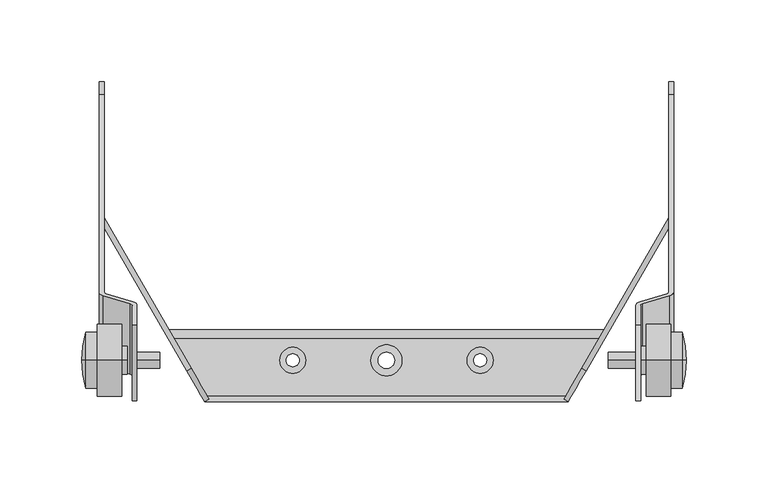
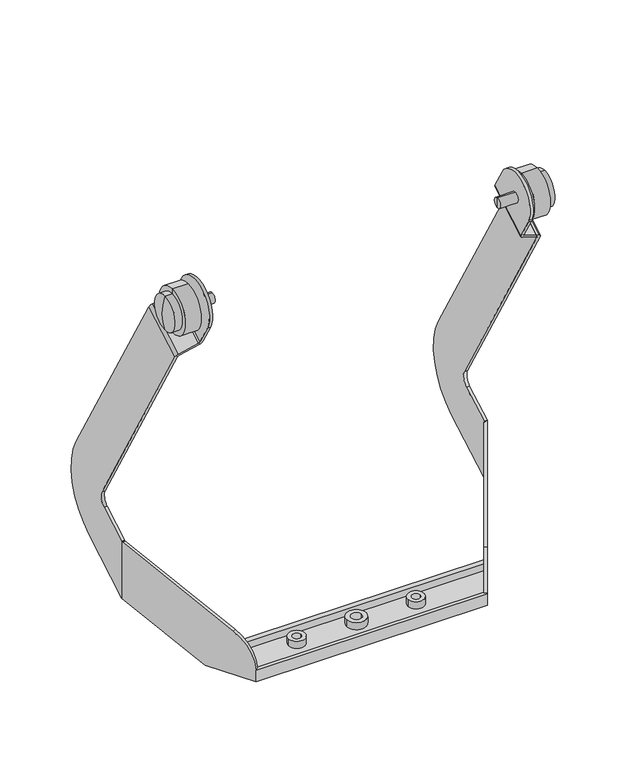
"""IFC4 building model written with IfcOpenShell, lengths in millimetres: proxy geometry, d&b E-Series E12 Flying Bracket : E12 Flying Bracket."""

from ifc_helpers import new_model, si_unit, point, frame, frame_2d, origin, origin_2d, place, context, project, spatial, polyline, circle_curve, ellipse_curve, trimmed, segment, composite_curve, outline, extrude, source, transform, mapped, element, save
from ifc_brep_helpers import plane_surface, cylinder_surface, revolved_surface, advanced_brep


def communication_devices_67a3c12e(model_context):
    return source(origin(), model_context, "Body", "SolidModel", [
        advanced_brep(
        [(135.9595215, 0.0, 0.0), (135.9595215, 0.0, -5.0), (135.9595215, 0.0, 5.0), (152.9595215, 0.0, -5.0), (152.9595215, 0.0, 0.0), (152.9595215, 0.0, 5.0)],
        [
            (0, 1),
            (1, 2, circle_curve(frame((135.9595215, 0.0, 0.0), z_axis=(-1.0, 0.0, 0.0), x_axis=(0.0, 0.0, 1.0)), 5.0)),
            (2, 0),
            (2, 1, circle_curve(frame((135.9595215, 0.0, 0.0), z_axis=(-1.0, 0.0, 0.0), x_axis=(0.0, 0.0, 1.0)), 5.0)),
            (3, 4),
            (4, 5),
            (5, 3, circle_curve(frame((152.9595215, 0.0, 0.0), z_axis=(1.0, 0.0, 0.0), x_axis=(0.0, 0.0, 1.0)), 5.0)),
            (3, 5, circle_curve(frame((152.9595215, 0.0, 0.0), z_axis=(1.0, 0.0, 0.0), x_axis=(0.0, 0.0, 1.0)), 5.0)),
            (1, 3),
            (5, 2),
        ],
        [
            plane_surface(frame((135.9595215, 0.0, 0.0), z_axis=(-1.0, 0.0, 0.0), x_axis=(0.0, 0.0, 1.0))),
            plane_surface(frame((152.9595215, 0.0, 0.0), z_axis=(1.0, 0.0, 0.0), x_axis=(0.0, 0.0, 1.0))),
            cylinder_surface(frame((129.4940408, 0.0, 0.0), z_axis=(-1.0, 0.0, 0.0), x_axis=(0.0, 0.0, 1.0)), 5.0),
        ],
        [
            (0, [[1, 2, 3]]),
            (0, [[-3, 4, -1]]),
            (1, [[5, 6, 7]]),
            (1, [[-6, -5, 8]]),
            (2, [[9, -7, 10, -2]]),
            (2, [[-10, -8, -9, -4]]),
        ],
    ),
        advanced_brep(
        [(174.1608752, 0.0, -17.2114062), (181.2977902, 0.0, -17.2114062), (181.2977902, 0.0, 17.2114062), (174.1608752, 0.0, 17.2114062), (174.1608752, 0.0, -22.2114062), (174.1608752, 0.0, 22.2114062), (159.1608752, 0.0, -22.2114062), (159.1608752, 0.0, 22.2114062), (159.1608752, 0.0, -8.6587657), (159.1608752, 0.0, 8.6587657), (155.9595215, 0.0, -8.6587657), (155.9595215, 0.0, 8.6587657), (155.9595215, 0.0, 0.0), (183.8983232, 0.0, 0.0)],
        [
            (0, 1),
            (1, 2, circle_curve(frame((181.2977902, 0.0, 0.0), z_axis=(-1.0, 0.0, 0.0), x_axis=(0.0, 0.0, 1.0)), 17.2114062)),
            (2, 3),
            (3, 0, circle_curve(frame((174.1608752, 0.0, 0.0), z_axis=(1.0, 0.0, 0.0), x_axis=(0.0, 0.0, 1.0)), 17.2114062)),
            (2, 1, circle_curve(frame((181.2977902, 0.0, 0.0), z_axis=(-1.0, 0.0, 0.0), x_axis=(0.0, 0.0, 1.0)), 17.2114062)),
            (0, 3, circle_curve(frame((174.1608752, 0.0, 0.0), z_axis=(1.0, 0.0, 0.0), x_axis=(0.0, 0.0, 1.0)), 17.2114062)),
            (4, 0),
            (3, 5),
            (5, 4, circle_curve(frame((174.1608752, 0.0, 0.0), z_axis=(1.0, 0.0, 0.0), x_axis=(0.0, 0.0, 1.0)), 22.2114062)),
            (4, 5, circle_curve(frame((174.1608752, 0.0, 0.0), z_axis=(1.0, 0.0, 0.0), x_axis=(0.0, 0.0, 1.0)), 22.2114062)),
            (6, 4),
            (5, 7),
            (7, 6, circle_curve(frame((159.1608752, 0.0, 0.0), z_axis=(1.0, 0.0, 0.0), x_axis=(0.0, 0.0, 1.0)), 22.2114062)),
            (6, 7, circle_curve(frame((159.1608752, 0.0, 0.0), z_axis=(1.0, 0.0, 0.0), x_axis=(0.0, 0.0, 1.0)), 22.2114062)),
            (8, 6),
            (7, 9),
            (9, 8, circle_curve(frame((159.1608752, 0.0, 0.0), z_axis=(1.0, 0.0, 0.0), x_axis=(0.0, 0.0, 1.0)), 8.6587657)),
            (8, 9, circle_curve(frame((159.1608752, 0.0, 0.0), z_axis=(1.0, 0.0, 0.0), x_axis=(0.0, 0.0, 1.0)), 8.6587657)),
            (10, 8),
            (9, 11),
            (11, 10, circle_curve(frame((155.9595215, 0.0, 0.0), z_axis=(1.0, 0.0, 0.0), x_axis=(0.0, 0.0, 1.0)), 8.6587657)),
            (10, 11, circle_curve(frame((155.9595215, 0.0, 0.0), z_axis=(1.0, 0.0, 0.0), x_axis=(0.0, 0.0, 1.0)), 8.6587657)),
            (12, 10),
            (11, 12),
            (1, 13, circle_curve(frame((125.6419429, 0.0, 0.0), z_axis=(0.0, -1.0, 0.0), x_axis=(1.0, 0.0, 0.0)), 58.2563803)),
            (13, 2, circle_curve(frame((125.6419429, 0.0, 0.0), z_axis=(0.0, -1.0, 0.0), x_axis=(1.0, 0.0, 0.0)), 58.2563803)),
        ],
        [
            cylinder_surface(frame((129.4940408, 0.0, 0.0), z_axis=(-1.0, 0.0, 0.0), x_axis=(0.0, 0.0, 1.0)), 17.2114062),
            plane_surface(frame((174.1608752, 0.0, 0.0), z_axis=(1.0, 0.0, 0.0), x_axis=(0.0, 0.0, 1.0))),
            cylinder_surface(frame((129.4940408, 0.0, 0.0), z_axis=(-1.0, 0.0, 0.0), x_axis=(0.0, 0.0, 1.0)), 22.2114062),
            plane_surface(frame((159.1608752, 0.0, 0.0), z_axis=(-1.0, 0.0, 0.0), x_axis=(0.0, 0.0, 1.0))),
            cylinder_surface(frame((129.4940408, 0.0, 0.0), z_axis=(-1.0, 0.0, 0.0), x_axis=(0.0, 0.0, 1.0)), 8.6587657),
            plane_surface(frame((155.9595215, 0.0, 0.0), z_axis=(-1.0, 0.0, 0.0), x_axis=(0.0, 0.0, 1.0))),
            revolved_surface(trimmed(ellipse_curve(frame((125.6419429, 0.0, 0.0), z_axis=(0.0, -1.0, 0.0), x_axis=(1.0, 0.0, 0.0)), 58.2563803, 58.2563803), [point((183.8983232, 0.0, 0.0))], [point((181.2977902, 0.0, 17.2114062))], True, "CARTESIAN"), (129.4940408, 0.0, 0.0), (-1.0, 0.0, 0.0)),
        ],
        [
            (0, [[1, 2, 3, 4]]),
            (0, [[-3, 5, -1, 6]]),
            (1, [[7, -4, 8, 9]]),
            (1, [[-8, -6, -7, 10]]),
            (2, [[11, -9, 12, 13]]),
            (2, [[-12, -10, -11, 14]]),
            (3, [[15, -13, 16, 17]]),
            (3, [[-16, -14, -15, 18]]),
            (4, [[19, -17, 20, 21]]),
            (4, [[-20, -18, -19, 22]]),
            (5, [[23, -21, 24]]),
            (5, [[-24, -22, -23]]),
            (6, [[25, 26, -2]]),
            (6, [[-26, -25, -5]]),
        ],
    ),
        advanced_brep(
        [(-155.9595215, 0.0, -5.0), (-138.9595215, 0.0, -5.0), (-138.9595215, 0.0, 5.0), (-155.9595215, 0.0, 5.0), (-155.9595215, 0.0, 0.0), (-138.9595215, 0.0, 0.0)],
        [
            (0, 1),
            (1, 2, circle_curve(frame((-138.9595215, 0.0, 0.0), z_axis=(-1.0, 0.0, 0.0), x_axis=(0.0, 0.0, 1.0)), 5.0)),
            (2, 3),
            (3, 0, circle_curve(frame((-155.9595215, 0.0, 0.0), z_axis=(1.0, 0.0, 0.0), x_axis=(0.0, 0.0, 1.0)), 5.0)),
            (2, 1, circle_curve(frame((-138.9595215, 0.0, 0.0), z_axis=(-1.0, 0.0, 0.0), x_axis=(0.0, 0.0, 1.0)), 5.0)),
            (0, 3, circle_curve(frame((-155.9595215, 0.0, 0.0), z_axis=(1.0, 0.0, 0.0), x_axis=(0.0, 0.0, 1.0)), 5.0)),
            (4, 0),
            (3, 4),
            (1, 5),
            (5, 2),
        ],
        [
            cylinder_surface(frame((129.4940408, 0.0, 0.0), z_axis=(-1.0, 0.0, 0.0), x_axis=(0.0, 0.0, 1.0)), 5.0),
            plane_surface(frame((-155.9595215, 0.0, 0.0), z_axis=(-1.0, 0.0, 0.0), x_axis=(0.0, 0.0, 1.0))),
            plane_surface(frame((-138.9595215, 0.0, 0.0), z_axis=(1.0, 0.0, 0.0), x_axis=(0.0, 0.0, 1.0))),
        ],
        [
            (0, [[1, 2, 3, 4]]),
            (0, [[-3, 5, -1, 6]]),
            (1, [[7, -4, 8]]),
            (1, [[-8, -6, -7]]),
            (2, [[9, 10, -2]]),
            (2, [[-10, -9, -5]]),
        ],
    ),
        advanced_brep(
        [(-158.9595215, 0.0, -8.6587657), (-158.9595215, 0.0, 0.0), (-158.9595215, 0.0, 8.6587657), (-162.1608752, 0.0, -8.6587657), (-162.1608752, 0.0, 8.6587657), (-162.1608752, 0.0, -22.2114062), (-162.1608752, 0.0, 22.2114062), (-177.1608752, 0.0, -22.2114062), (-177.1608752, 0.0, 22.2114062), (-177.1608752, 0.0, -17.2114062), (-177.1608752, 0.0, 17.2114062), (-184.2977902, 0.0, -17.2114062), (-184.2977902, 0.0, 17.2114062), (-186.8983232, 0.0, 0.0)],
        [
            (0, 1),
            (1, 2),
            (2, 0, circle_curve(frame((-158.9595215, 0.0, 0.0), z_axis=(1.0, 0.0, 0.0), x_axis=(0.0, 0.0, 1.0)), 8.6587657)),
            (0, 2, circle_curve(frame((-158.9595215, 0.0, 0.0), z_axis=(1.0, 0.0, 0.0), x_axis=(0.0, 0.0, 1.0)), 8.6587657)),
            (3, 0),
            (2, 4),
            (4, 3, circle_curve(frame((-162.1608752, 0.0, 0.0), z_axis=(1.0, 0.0, 0.0), x_axis=(0.0, 0.0, 1.0)), 8.6587657)),
            (3, 4, circle_curve(frame((-162.1608752, 0.0, 0.0), z_axis=(1.0, 0.0, 0.0), x_axis=(0.0, 0.0, 1.0)), 8.6587657)),
            (5, 3),
            (4, 6),
            (6, 5, circle_curve(frame((-162.1608752, 0.0, 0.0), z_axis=(1.0, 0.0, 0.0), x_axis=(0.0, 0.0, 1.0)), 22.2114062)),
            (5, 6, circle_curve(frame((-162.1608752, 0.0, 0.0), z_axis=(1.0, 0.0, 0.0), x_axis=(0.0, 0.0, 1.0)), 22.2114062)),
            (7, 5),
            (6, 8),
            (8, 7, circle_curve(frame((-177.1608752, 0.0, 0.0), z_axis=(1.0, 0.0, 0.0), x_axis=(0.0, 0.0, 1.0)), 22.2114062)),
            (7, 8, circle_curve(frame((-177.1608752, 0.0, 0.0), z_axis=(1.0, 0.0, 0.0), x_axis=(0.0, 0.0, 1.0)), 22.2114062)),
            (9, 7),
            (8, 10),
            (10, 9, circle_curve(frame((-177.1608752, 0.0, 0.0), z_axis=(1.0, 0.0, 0.0), x_axis=(0.0, 0.0, 1.0)), 17.2114062)),
            (9, 10, circle_curve(frame((-177.1608752, 0.0, 0.0), z_axis=(1.0, 0.0, 0.0), x_axis=(0.0, 0.0, 1.0)), 17.2114062)),
            (11, 9),
            (10, 12),
            (12, 11, circle_curve(frame((-184.2977902, 0.0, 0.0), z_axis=(1.0, 0.0, 0.0), x_axis=(0.0, 0.0, 1.0)), 17.2114062)),
            (11, 12, circle_curve(frame((-184.2977902, 0.0, 0.0), z_axis=(1.0, 0.0, 0.0), x_axis=(0.0, 0.0, 1.0)), 17.2114062)),
            (13, 11, circle_curve(frame((-128.6419429, 0.0, 0.0), z_axis=(0.0, -1.0, 0.0), x_axis=(-1.0, 0.0, 0.0)), 58.2563803)),
            (12, 13, circle_curve(frame((-128.6419429, 0.0, 0.0), z_axis=(0.0, -1.0, 0.0), x_axis=(-1.0, 0.0, 0.0)), 58.2563803)),
        ],
        [
            plane_surface(frame((-158.9595215, 0.0, 0.0), z_axis=(1.0, 0.0, 0.0), x_axis=(0.0, 0.0, 1.0))),
            cylinder_surface(frame((129.4940408, 0.0, 0.0), z_axis=(-1.0, 0.0, 0.0), x_axis=(0.0, 0.0, 1.0)), 8.6587657),
            plane_surface(frame((-162.1608752, 0.0, 0.0), z_axis=(1.0, 0.0, 0.0), x_axis=(0.0, 0.0, 1.0))),
            cylinder_surface(frame((129.4940408, 0.0, 0.0), z_axis=(-1.0, 0.0, 0.0), x_axis=(0.0, 0.0, 1.0)), 22.2114062),
            plane_surface(frame((-177.1608752, 0.0, 0.0), z_axis=(-1.0, 0.0, 0.0), x_axis=(0.0, 0.0, 1.0))),
            cylinder_surface(frame((129.4940408, 0.0, 0.0), z_axis=(-1.0, 0.0, 0.0), x_axis=(0.0, 0.0, 1.0)), 17.2114062),
            revolved_surface(trimmed(ellipse_curve(frame((-128.6419429, 0.0, 0.0), z_axis=(0.0, -1.0, 0.0), x_axis=(-1.0, 0.0, 0.0)), 58.2563803, 58.2563803), [point((-184.2977902, 0.0, 17.2114062))], [point((-186.8983232, 0.0, 0.0))], True, "CARTESIAN"), (129.4940408, 0.0, 0.0), (-1.0, 0.0, 0.0)),
        ],
        [
            (0, [[1, 2, 3]]),
            (0, [[-2, -1, 4]]),
            (1, [[5, -3, 6, 7]]),
            (1, [[-6, -4, -5, 8]]),
            (2, [[9, -7, 10, 11]]),
            (2, [[-10, -8, -9, 12]]),
            (3, [[13, -11, 14, 15]]),
            (3, [[-14, -12, -13, 16]]),
            (4, [[17, -15, 18, 19]]),
            (4, [[-18, -16, -17, 20]]),
            (5, [[21, -19, 22, 23]]),
            (5, [[-22, -20, -21, 24]]),
            (6, [[25, -23, 26]]),
            (6, [[-26, -24, -25]]),
        ],
    ),
        advanced_brep(
        [(-109.8427221, -22.0294085, -380.4443113), (109.8427221, -22.0294085, -380.4443113), (130.4541267, 13.6705915, -380.4443113), (-130.4541267, 13.6705915, -380.4443113), (-61.4155031, 0.0, -380.4443113), (-53.4660711, 0.0, -380.4443113), (61.4155031, 0.0, -380.4443113), (53.4660711, 0.0, -380.4443113), (-5.0, 0.0, -380.4443113), (5.0, 0.0, -380.4443113), (-133.340878, 18.6705915, -385.4443113), (-133.340878, 18.6705915, -373.4443113), (133.340878, 18.6705915, -373.4443113), (133.340878, 18.6705915, -385.4443113), (-61.4155031, 0.0, -385.4443113), (-53.4660711, 0.0, -385.4443113), (61.4155031, 0.0, -385.4443113), (53.4660711, 0.0, -385.4443113), (-5.0, 0.0, -385.4443113), (5.0, 0.0, -385.4443113), (-155.9595215, 21.6526926, 12.5011879), (-155.9595215, 33.8153128, -8.5650882), (-155.9595215, -9.4859574, -33.5650882), (-155.9595215, -21.6485776, -12.4988121), (-152.9595215, 21.6526926, 12.5011879), (-152.9595215, -21.6485776, -12.4988121), (-152.9595215, -9.4859574, -33.5650882), (-152.9595215, 33.8153128, -8.5650882), (-155.4595215, 35.9803763, -12.3150882), (-172.0, 40.7552012, -20.5853275), (-173.0, 41.6212266, -22.0853275), (-173.0, 162.8973037, -232.1416549), (-176.0, 162.8973037, -232.1416549), (-176.0, 41.6212266, -22.0853275), (-173.5, 39.456163, -18.3353275), (-156.9595215, 34.6813382, -10.0650882), (-156.9595215, -8.619932, -35.0650882), (-173.5, -3.8451071, -43.3353275), (-176.0, -1.6800436, -47.0853275), (-176.0, 119.6052554, -257.1576276), (-173.0, 119.6052554, -257.1576276), (-173.0, -1.6800436, -47.0853275), (-172.0, -2.546069, -45.5853275), (-155.4595215, -7.3208939, -37.3150882), (-173.0, 115.9450014, -270.8178817), (-173.0, 86.5583581, -287.7842681), (-173.0, 86.5583581, -288.5343764), (-173.0, 87.3622057, -288.1862499), (-173.0, 87.3622057, -345.0338964), (-173.0, 140.9357795, -314.1031791), (-176.0, 140.9357795, -314.1031791), (-176.0, 86.5583581, -345.497998), (-176.0, 86.5583581, -287.7842681), (-176.0, 115.9450014, -270.8178817), (-130.4541267, 13.6705915, -373.4443113), (130.4541267, 13.6705915, -373.4443113), (111.2860977, -25.5294085, -373.4443113), (111.3757414, -25.3741412, -373.4443113), (108.7776652, -23.8741412, -373.4443113), (109.8427221, -22.0294085, -373.4443113), (-109.8427221, -22.0294085, -373.4443113), (-108.7776652, -23.8741412, -373.4443113), (-111.3757414, -25.3741412, -373.4443113), (-111.2860977, -25.5294085, -373.4443113), (-111.2860977, -25.5294085, -385.4443113), (111.2860977, -25.5294085, -385.4443113), (-173.4019238, 88.0583581, -344.6319726), (-135.9400452, 17.1724811, -385.4443113), (-122.3407926, -6.3821154, -341.4512241), (-173.4019238, 88.0583581, -345.497998), (-119.7427164, -4.8821154, -341.4512241), (135.9400452, 17.1724811, -385.4443113), (176.0, 86.5583581, -345.497998), (176.0, 86.5583581, -287.7842681), (122.3407926, -6.3821154, -341.4512241), (173.0, -1.6800436, -47.0853275), (173.0, 41.6212266, -22.0853275), (173.0, 162.8973037, -232.1416549), (173.0, 140.9357795, -314.1031791), (173.0, 87.3622057, -345.0338964), (173.0, 87.3622057, -288.1862499), (173.0, 86.5583581, -288.5343764), (173.0, 86.5583581, -287.7842681), (173.0, 115.9450014, -270.8178817), (173.0, 119.6052554, -257.1576276), (176.0, 41.6212266, -22.0853275), (176.0, -1.6800436, -47.0853275), (176.0, 119.6052554, -257.1576276), (176.0, 115.9450014, -270.8178817), (176.0, 140.9357795, -314.1031791), (176.0, 162.8973037, -232.1416549), (172.0, 40.7552012, -20.5853275), (155.4595215, 35.9803763, -12.3150882), (152.9595215, 33.8153128, -8.5650882), (152.9595215, 21.6526926, 12.5011879), (155.9595215, 21.6526926, 12.5011879), (155.9595215, 33.8153128, -8.5650882), (156.9595215, 34.6813382, -10.0650882), (173.5, 39.456163, -18.3353275), (173.4019238, 88.0583581, -344.6319726), (173.5, -3.8451071, -43.3353275), (156.9595215, -8.619932, -35.0650882), (155.9595215, -9.4859574, -33.5650882), (155.9595215, -21.6485776, -12.4988121), (152.9595215, -21.6485776, -12.4988121), (152.9595215, -9.4859574, -33.5650882), (155.4595215, -7.3208939, -37.3150882), (172.0, -2.546069, -45.5853275), (119.7427164, -4.8821154, -341.4512241), (173.4019238, 88.0583581, -345.497998)],
        [
            (0, 1),
            (1, 2),
            (2, 3),
            (3, 0),
            (4, 5, circle_curve(frame((-57.4407871, 0.0, -380.4443113), z_axis=(0.0, 0.0, -1.0), x_axis=(1.0, 0.0, 0.0)), 3.974716)),
            (5, 4, circle_curve(frame((-57.4407871, 0.0, -380.4443113), z_axis=(0.0, 0.0, -1.0), x_axis=(1.0, 0.0, 0.0)), 3.974716)),
            (6, 7, circle_curve(frame((57.4407871, 0.0, -380.4443113), z_axis=(0.0, 0.0, -1.0), x_axis=(-1.0, 0.0, 0.0)), 3.974716)),
            (7, 6, circle_curve(frame((57.4407871, 0.0, -380.4443113), z_axis=(0.0, 0.0, -1.0), x_axis=(-1.0, 0.0, 0.0)), 3.974716)),
            (8, 9, circle_curve(frame((0.0, 0.0, -380.4443113), z_axis=(0.0, 0.0, -1.0), x_axis=(1.0, 0.0, 0.0)), 5.0)),
            (9, 8, circle_curve(frame((0.0, 0.0, -380.4443113), z_axis=(0.0, 0.0, -1.0), x_axis=(1.0, 0.0, 0.0)), 5.0)),
            (10, 11),
            (11, 12),
            (12, 13),
            (13, 10),
            (14, 4),
            (5, 15),
            (15, 14, circle_curve(frame((-57.4407871, 0.0, -385.4443113), z_axis=(0.0, 0.0, -1.0), x_axis=(1.0, 0.0, 0.0)), 3.974716)),
            (14, 15, circle_curve(frame((-57.4407871, 0.0, -385.4443113), z_axis=(0.0, 0.0, -1.0), x_axis=(1.0, 0.0, 0.0)), 3.974716)),
            (16, 6),
            (7, 17),
            (17, 16, circle_curve(frame((57.4407871, 0.0, -385.4443113), z_axis=(0.0, 0.0, -1.0), x_axis=(-1.0, 0.0, 0.0)), 3.974716)),
            (16, 17, circle_curve(frame((57.4407871, 0.0, -385.4443113), z_axis=(0.0, 0.0, -1.0), x_axis=(-1.0, 0.0, 0.0)), 3.974716)),
            (18, 8),
            (9, 19),
            (19, 18, circle_curve(frame((0.0, 0.0, -385.4443113), z_axis=(0.0, 0.0, -1.0), x_axis=(1.0, 0.0, 0.0)), 5.0)),
            (18, 19, circle_curve(frame((0.0, 0.0, -385.4443113), z_axis=(0.0, 0.0, -1.0), x_axis=(1.0, 0.0, 0.0)), 5.0)),
            (20, 21),
            (21, 22),
            (22, 23),
            (23, 20, circle_curve(frame((-155.9595215, 0.0020575, 0.0011879), z_axis=(-1.0, 0.0, 0.0), x_axis=(0.0, 1.0, 0.0)), 25.0)),
            (24, 25, circle_curve(frame((-152.9595215, 0.0020575, 0.0011879), z_axis=(1.0, 0.0, 0.0), x_axis=(0.0, 1.0, 0.0)), 25.0)),
            (25, 26),
            (26, 27),
            (27, 24),
            (20, 24),
            (27, 28, circle_curve(frame((-157.9595215, 33.8153128, -8.5650882), z_axis=(0.0, 0.866025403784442, 0.4999999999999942), x_axis=(0.0, -0.4999999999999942, 0.866025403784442)), 5.0)),
            (28, 29),
            (29, 30, circle_curve(frame((-171.0, 41.6212266, -22.0853275), z_axis=(0.0, -0.866025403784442, -0.4999999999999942), x_axis=(0.0, -0.4999999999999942, 0.866025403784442)), 2.0)),
            (30, 31),
            (31, 32),
            (32, 33),
            (33, 34, circle_curve(frame((-171.0, 41.6212266, -22.0853275), z_axis=(0.0, 0.866025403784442, 0.4999999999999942), x_axis=(0.0, -0.4999999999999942, 0.866025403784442)), 5.0)),
            (34, 35),
            (35, 21, circle_curve(frame((-157.9595215, 33.8153128, -8.5650882), z_axis=(0.0, -0.866025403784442, -0.4999999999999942), x_axis=(0.0, -0.4999999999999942, 0.866025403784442)), 2.0)),
            (22, 36, circle_curve(frame((-157.9595215, -9.4859574, -33.5650882), z_axis=(0.0, 0.866025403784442, 0.4999999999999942), x_axis=(0.0, -0.4999999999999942, 0.866025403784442)), 2.0)),
            (36, 37),
            (37, 38, circle_curve(frame((-171.0, -1.6800436, -47.0853275), z_axis=(0.0, -0.866025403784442, -0.4999999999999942), x_axis=(0.0, -0.4999999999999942, 0.866025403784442)), 5.0)),
            (38, 39),
            (39, 40),
            (40, 41),
            (41, 42, circle_curve(frame((-171.0, -1.6800436, -47.0853275), z_axis=(0.0, 0.866025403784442, 0.4999999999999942), x_axis=(0.0, -0.4999999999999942, 0.866025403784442)), 2.0)),
            (42, 43),
            (43, 26, circle_curve(frame((-157.9595215, -9.4859574, -33.5650882), z_axis=(0.0, -0.866025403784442, -0.4999999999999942), x_axis=(0.0, -0.4999999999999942, 0.866025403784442)), 5.0)),
            (25, 23),
            (30, 41),
            (40, 44, circle_curve(frame((-173.0, 110.9450014, -262.1576276), z_axis=(-1.0, 0.0, 0.0), x_axis=(0.0, 1.0, 0.0)), 10.0)),
            (44, 45),
            (45, 46),
            (46, 47),
            (47, 48),
            (48, 49),
            (49, 31, circle_curve(frame((-173.0, 110.9357795, -262.1416549), z_axis=(1.0, 0.0, 0.0), x_axis=(0.0, 1.0, 0.0)), 60.0)),
            (38, 33),
            (32, 50, circle_curve(frame((-176.0, 110.9357795, -262.1416549), z_axis=(-1.0, 0.0, 0.0), x_axis=(0.0, 1.0, 0.0)), 60.0)),
            (50, 51),
            (51, 52),
            (52, 53),
            (53, 39, circle_curve(frame((-176.0, 110.9450014, -262.1576276), z_axis=(1.0, 0.0, 0.0), x_axis=(0.0, 1.0, 0.0)), 10.0)),
            (11, 54),
            (54, 55),
            (55, 12),
            (56, 57),
            (57, 58),
            (58, 59),
            (59, 60),
            (60, 61),
            (61, 62),
            (62, 63),
            (63, 56),
            (54, 3),
            (2, 55),
            (59, 1),
            (0, 60),
            (63, 64),
            (64, 65),
            (65, 56),
            (49, 50),
            (48, 66),
            (66, 51),
            (52, 46),
            (45, 52),
            (44, 53),
            (29, 42),
            (28, 43),
            (35, 36),
            (34, 37),
            (51, 67),
            (67, 64),
            (62, 68, circle_curve(frame((-131.2860977, 9.1116076, -377.2272785), z_axis=(-0.866025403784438, -0.500000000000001, 0.0), x_axis=(-0.500000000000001, 0.866025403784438, 0.0)), 40.0)),
            (68, 52),
            (69, 66),
            (47, 70),
            (70, 61, circle_curve(frame((-128.6880215, 10.6116076, -377.2272785), z_axis=(0.866025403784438, 0.500000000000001, 0.0), x_axis=(-0.500000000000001, 0.866025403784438, 0.0)), 40.0)),
            (10, 69),
            (69, 51),
            (68, 70),
            (13, 71),
            (71, 65),
            (67, 10),
            (71, 72),
            (72, 73),
            (73, 74),
            (74, 57, circle_curve(frame((131.2860977, 9.1116076, -377.2272785), z_axis=(0.866025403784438, -0.500000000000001, 0.0), x_axis=(0.500000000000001, 0.866025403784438, 0.0)), 40.0)),
            (75, 76),
            (76, 77),
            (77, 78, circle_curve(frame((173.0, 110.9357795, -262.1416549), z_axis=(-1.0, 0.0, 0.0), x_axis=(0.0, 1.0, 0.0)), 60.0)),
            (78, 79),
            (79, 80),
            (80, 81),
            (81, 82),
            (82, 83),
            (83, 84, circle_curve(frame((173.0, 110.9450014, -262.1576276), z_axis=(1.0, 0.0, 0.0), x_axis=(0.0, 1.0, 0.0)), 10.0)),
            (84, 75),
            (85, 86),
            (86, 87),
            (87, 88, circle_curve(frame((176.0, 110.9450014, -262.1576276), z_axis=(-1.0, 0.0, 0.0), x_axis=(0.0, 1.0, 0.0)), 10.0)),
            (88, 73),
            (72, 89),
            (89, 90, circle_curve(frame((176.0, 110.9357795, -262.1416549), z_axis=(1.0, 0.0, 0.0), x_axis=(0.0, 1.0, 0.0)), 60.0)),
            (90, 85),
            (76, 91, circle_curve(frame((171.0, 41.6212266, -22.0853275), z_axis=(0.0, -0.866025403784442, -0.4999999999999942), x_axis=(0.0, -0.4999999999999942, 0.866025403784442)), 2.0)),
            (91, 92),
            (92, 93, circle_curve(frame((157.9595215, 33.8153128, -8.5650882), z_axis=(0.0, 0.866025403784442, 0.4999999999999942), x_axis=(0.0, -0.4999999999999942, 0.866025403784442)), 5.0)),
            (93, 94),
            (94, 95),
            (95, 96),
            (96, 97, circle_curve(frame((157.9595215, 33.8153128, -8.5650882), z_axis=(0.0, -0.866025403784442, -0.4999999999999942), x_axis=(0.0, -0.4999999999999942, 0.866025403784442)), 2.0)),
            (97, 98),
            (98, 85, circle_curve(frame((171.0, 41.6212266, -22.0853275), z_axis=(0.0, 0.866025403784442, 0.4999999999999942), x_axis=(0.0, -0.4999999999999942, 0.866025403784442)), 5.0)),
            (90, 77),
            (89, 78),
            (72, 99),
            (99, 79),
            (81, 73),
            (73, 82),
            (88, 83),
            (87, 84),
            (86, 100, circle_curve(frame((171.0, -1.6800436, -47.0853275), z_axis=(0.0, -0.866025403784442, -0.4999999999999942), x_axis=(0.0, -0.4999999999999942, 0.866025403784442)), 5.0)),
            (100, 101),
            (101, 102, circle_curve(frame((157.9595215, -9.4859574, -33.5650882), z_axis=(0.0, 0.866025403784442, 0.4999999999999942), x_axis=(0.0, -0.4999999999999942, 0.866025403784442)), 2.0)),
            (102, 103),
            (103, 104),
            (104, 105),
            (105, 106, circle_curve(frame((157.9595215, -9.4859574, -33.5650882), z_axis=(0.0, -0.866025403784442, -0.4999999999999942), x_axis=(0.0, -0.4999999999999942, 0.866025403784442)), 5.0)),
            (106, 107),
            (107, 75, circle_curve(frame((171.0, -1.6800436, -47.0853275), z_axis=(0.0, 0.866025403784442, 0.4999999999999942), x_axis=(0.0, -0.4999999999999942, 0.866025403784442)), 2.0)),
            (95, 103, circle_curve(frame((155.9595215, 0.0020575, 0.0011879), z_axis=(1.0, 0.0, 0.0), x_axis=(0.0, 1.0, 0.0)), 25.0)),
            (102, 96),
            (93, 105),
            (104, 94, circle_curve(frame((152.9595215, 0.0020575, 0.0011879), z_axis=(-1.0, 0.0, 0.0), x_axis=(0.0, 1.0, 0.0)), 25.0)),
            (107, 91),
            (106, 92),
            (101, 97),
            (100, 98),
            (58, 108, circle_curve(frame((128.6880215, 10.6116076, -377.2272785), z_axis=(-0.866025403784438, 0.500000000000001, 0.0), x_axis=(0.500000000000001, 0.866025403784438, 0.0)), 40.0)),
            (108, 80),
            (99, 109),
            (109, 13),
            (72, 109),
            (108, 74),
        ],
        [
            plane_surface(frame((-104.945433, -30.511762, -380.4443113), z_axis=(0.0, 0.0, 1.0), x_axis=(-0.4999999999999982, 0.8660254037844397, 0.0))),
            plane_surface(frame((-133.340878, 18.6705915, -380.4443113), z_axis=(0.0, 1.0, 0.0), x_axis=(0.0, 0.0, -1.0))),
            revolved_surface(polyline([(-53.4660711, 0.0, -385.4443113), (-53.4660711, 0.0, -380.4443113)]), (-57.4407871, 0.0, -380.4443113), (0.0, 0.0, -1.0)),
            revolved_surface(polyline([(53.4660711, 0.0, -385.4443113), (53.4660711, 0.0, -380.4443113)]), (57.4407871, 0.0, -380.4443113), (0.0, 0.0, -1.0)),
            revolved_surface(polyline([(5.0, 0.0, -385.4443113), (5.0, 0.0, -380.4443113)]), (0.0, 0.0, -380.4443113), (0.0, 0.0, -1.0)),
            plane_surface(frame((-155.9595215, 25.0020575, 0.0011879), z_axis=(-1.0, 0.0, 0.0), x_axis=(0.0, 0.0, 1.0))),
            plane_surface(frame((-152.9595215, 25.0020575, 0.0011879), z_axis=(1.0, 0.0, 0.0), x_axis=(0.0, 0.0, -1.0))),
            plane_surface(frame((-155.9595215, 33.8153128, -8.5650882), z_axis=(0.0, 0.8660254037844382, 0.500000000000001), x_axis=(1.0, 0.0, 0.0))),
            plane_surface(frame((-155.9595215, -21.6485776, -12.4988121), z_axis=(0.0, -0.8660254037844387, -0.5), x_axis=(1.0, 0.0, 0.0))),
            cylinder_surface(frame((-152.9595215, 0.0020575, 0.0011879), z_axis=(-1.0, 0.0, 0.0), x_axis=(0.0, 1.0, 0.0)), 25.0),
            plane_surface(frame((-173.0, 162.8973037, -232.1416549), z_axis=(1.0, 0.0, 0.0), x_axis=(0.0, 0.49999999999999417, -0.866025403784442))),
            plane_surface(frame((-176.0, 162.8973037, -232.1416549), z_axis=(-1.0, 0.0, 0.0), x_axis=(0.0, -0.49999999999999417, 0.866025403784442))),
            plane_surface(frame((-125.0774491, 4.3579127, -373.4443113), z_axis=(0.0, 0.0, 1.0), x_axis=(-0.5000000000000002, 0.8660254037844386, 0.0))),
            plane_surface(frame((130.4541267, 13.6705915, -373.4443113), z_axis=(0.0, -1.0, 0.0), x_axis=(0.0, 0.0, -1.0))),
            plane_surface(frame((-113.3068237, -22.0294085, -373.4443113), z_axis=(0.0, 1.0, 0.0), x_axis=(0.0, 0.0, -1.0))),
            plane_surface(frame((111.2860977, -25.5294085, -373.4443113), z_axis=(0.0, -1.0, 0.0), x_axis=(0.0, 0.0, -1.0))),
            cylinder_surface(frame((-176.0, 110.9357795, -262.1416549), z_axis=(1.0, 0.0, 0.0), x_axis=(0.0, 1.0, 0.0)), 60.0),
            plane_surface(frame((-173.0, 140.9357795, -314.1031791), z_axis=(0.0, 0.4999999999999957, -0.8660254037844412), x_axis=(-1.0, 0.0, 0.0))),
            plane_surface(frame((-173.0, 86.5583581, -345.497998), z_axis=(0.0, -1.0, 0.0), x_axis=(-1.0, 0.0, 0.0))),
            plane_surface(frame((-173.0, 86.5583581, -287.7842681), z_axis=(0.0, -0.49999999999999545, 0.8660254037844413), x_axis=(-1.0, 0.0, 0.0))),
            revolved_surface(polyline([(-176.0, 120.9450014, -262.1576276), (-173.0, 120.9450014, -262.1576276)]), (-176.0, 110.9450014, -262.1576276), (-1.0, 0.0, 0.0)),
            revolved_surface(polyline([(-171.0, -2.6800435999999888, -45.353276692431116), (-171.0, 40.621226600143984, -20.353276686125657)]), (-171.0, -1.6800436, -47.0853275), (0.0, -0.866025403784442, -0.4999999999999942)),
            plane_surface(frame((-172.0, 40.7552012, -20.5853275), z_axis=(0.5000000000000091, 0.43301270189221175, -0.7499999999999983), x_axis=(0.0, -0.866025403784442, -0.4999999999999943))),
            cylinder_surface(frame((-157.9595215, -9.4859574, -33.5650882), z_axis=(0.0, 0.866025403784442, 0.4999999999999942), x_axis=(0.0, -0.4999999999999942, 0.866025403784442)), 5.0),
            revolved_surface(polyline([(-157.9595215, -10.48595740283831, -31.833037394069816), (-157.9595215, 32.815312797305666, -6.833037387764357)]), (-157.9595215, -9.4859574, -33.5650882), (0.0, -0.866025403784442, -0.4999999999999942)),
            plane_surface(frame((-156.9595215, 34.6813382, -10.0650882), z_axis=(-0.5000000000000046, -0.43301270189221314, 0.7500000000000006), x_axis=(0.0, -0.8660254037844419, -0.49999999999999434))),
            cylinder_surface(frame((-171.0, -1.6800436, -47.0853275), z_axis=(0.0, 0.866025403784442, 0.4999999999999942), x_axis=(0.0, -0.4999999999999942, 0.866025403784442)), 5.0),
            plane_surface(frame((-176.0, 86.5583581, -287.7842681), z_axis=(-0.866025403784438, -0.500000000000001, 0.0), x_axis=(0.0, 0.0, 1.0))),
            plane_surface(frame((-173.4019238, 88.0583581, -287.7842681), z_axis=(0.866025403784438, 0.500000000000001, 0.0), x_axis=(0.0, 0.0, -1.0))),
            plane_surface(frame((-176.0, 86.5583581, -345.497998), z_axis=(-0.5000000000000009, 0.8660254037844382, 0.0), x_axis=(0.8660254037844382, 0.5000000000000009, 0.0))),
            plane_surface(frame((-176.0, 86.5583581, -287.7842681), z_axis=(0.22363262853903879, -0.38734307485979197, 0.8944013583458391), x_axis=(0.8660254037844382, 0.5000000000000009, 0.0))),
            cylinder_surface(frame((-128.6880215, 10.6116076, -377.2272785), z_axis=(-0.866025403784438, -0.500000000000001, 0.0), x_axis=(-0.500000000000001, 0.866025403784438, 0.0)), 40.0),
            plane_surface(frame((-111.2860977, -25.5294085, -385.4443113), z_axis=(0.0, 0.0, -1.0), x_axis=(0.8660254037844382, 0.5000000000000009, 0.0))),
            plane_surface(frame((-135.9400452, 17.1724811, -385.4443113), z_axis=(-0.2230989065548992, 0.3864186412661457, -0.8949343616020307), x_axis=(0.8660254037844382, 0.5000000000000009, 0.0))),
            plane_surface(frame((113.3068237, -22.0294085, -373.4443113), z_axis=(0.8660254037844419, -0.4999999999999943, 0.0), x_axis=(0.0, 0.0, -1.0))),
            plane_surface(frame((173.0, 64.3129938, -8.9842295), z_axis=(-1.0, 0.0, 0.0), x_axis=(0.0, -0.8660254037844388, -0.4999999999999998))),
            plane_surface(frame((176.0, 64.3129938, -8.9842295), z_axis=(1.0, 0.0, 0.0), x_axis=(0.0, 0.8660254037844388, 0.4999999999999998))),
            plane_surface(frame((173.0, 162.8973037, -232.1416549), z_axis=(0.0, 0.866025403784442, 0.49999999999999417), x_axis=(1.0, 0.0, 0.0))),
            cylinder_surface(frame((176.0, 110.9357795, -262.1416549), z_axis=(-1.0, 0.0, 0.0), x_axis=(0.0, 1.0, 0.0)), 60.0),
            plane_surface(frame((173.0, 86.5583581, -345.497998), z_axis=(0.0, 0.4999999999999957, -0.8660254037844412), x_axis=(1.0, 0.0, 0.0))),
            plane_surface(frame((173.0, 86.5583581, -287.7842681), z_axis=(0.0, -1.0, 0.0), x_axis=(1.0, 0.0, 0.0))),
            plane_surface(frame((173.0, 115.9450014, -270.8178817), z_axis=(0.0, -0.49999999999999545, 0.8660254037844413), x_axis=(1.0, 0.0, 0.0))),
            revolved_surface(polyline([(176.0, 120.9450014, -262.1576276), (173.0, 120.9450014, -262.1576276)]), (176.0, 110.9450014, -262.1576276), (1.0, 0.0, 0.0)),
            plane_surface(frame((173.0, -1.6800436, -47.0853275), z_axis=(0.0, -0.8660254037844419, -0.49999999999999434), x_axis=(1.0, 0.0, 0.0))),
            plane_surface(frame((155.9595215, 115.6740046, -150.3485014), z_axis=(1.0, 0.0, 0.0), x_axis=(0.0, 0.500000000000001, -0.8660254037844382))),
            plane_surface(frame((152.9595215, 115.6740046, -150.3485014), z_axis=(-1.0, 0.0, 0.0), x_axis=(0.0, -0.500000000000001, 0.8660254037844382))),
            cylinder_surface(frame((152.9595215, 0.0020575, 0.0011879), z_axis=(1.0, 0.0, 0.0), x_axis=(0.0, 1.0, 0.0)), 25.0),
            revolved_surface(polyline([(171.0, -2.6800435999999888, -45.353276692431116), (171.0, 40.621226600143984, -20.353276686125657)]), (171.0, -1.6800436, -47.0853275), (0.0, -0.866025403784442, -0.4999999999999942)),
            plane_surface(frame((155.4595215, 35.9803763, -12.3150882), z_axis=(-0.5000000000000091, 0.43301270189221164, -0.7499999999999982), x_axis=(0.0, -0.866025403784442, -0.4999999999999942))),
            cylinder_surface(frame((157.9595215, -9.4859574, -33.5650882), z_axis=(0.0, 0.866025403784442, 0.4999999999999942), x_axis=(0.0, -0.4999999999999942, 0.866025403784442)), 5.0),
            revolved_surface(polyline([(157.9595215, -10.48595740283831, -31.833037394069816), (157.9595215, 32.815312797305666, -6.833037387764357)]), (157.9595215, -9.4859574, -33.5650882), (0.0, -0.866025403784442, -0.4999999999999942)),
            plane_surface(frame((173.5, 39.456163, -18.3353275), z_axis=(0.5000000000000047, -0.433012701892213, 0.7500000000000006), x_axis=(0.0, -0.866025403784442, -0.4999999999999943))),
            cylinder_surface(frame((171.0, -1.6800436, -47.0853275), z_axis=(0.0, 0.866025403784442, 0.4999999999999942), x_axis=(0.0, -0.4999999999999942, 0.866025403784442)), 5.0),
            plane_surface(frame((139.827767, 29.9062127, -378.9769121), z_axis=(-0.8660254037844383, 0.5000000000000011, 0.0), x_axis=(0.4474671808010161, 0.7750358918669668, 0.44619781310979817))),
            plane_surface(frame((176.0, 86.5583581, -287.7842681), z_axis=(0.5000000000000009, 0.8660254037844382, 0.0), x_axis=(-0.8660254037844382, 0.5000000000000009, 0.0))),
            plane_surface(frame((122.3407926, -6.3821154, -341.4512241), z_axis=(-0.22363262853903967, -0.38734307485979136, 0.894401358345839), x_axis=(-0.8660254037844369, 0.500000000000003, 0.0))),
            cylinder_surface(frame((128.6880215, 10.6116076, -377.2272785), z_axis=(0.866025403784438, -0.500000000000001, 0.0), x_axis=(0.500000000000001, 0.866025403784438, 0.0)), 40.0),
            plane_surface(frame((176.0, 86.5583581, -345.497998), z_axis=(0.22309890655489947, 0.3864186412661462, -0.8949343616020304), x_axis=(-0.8660254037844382, 0.5000000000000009, 0.0))),
        ],
        [
            (0, [[1, 2, 3, 4], [5, 6], [7, 8], [9, 10]]),
            (1, [[11, 12, 13, 14]]),
            (2, [[15, -6, 16, 17]]),
            (2, [[-16, -5, -15, 18]]),
            (3, [[19, -8, 20, 21]]),
            (3, [[-20, -7, -19, 22]]),
            (4, [[23, -10, 24, 25]]),
            (4, [[-24, -9, -23, 26]]),
            (5, [[27, 28, 29, 30]]),
            (6, [[31, 32, 33, 34]]),
            (7, [[35, -34, 36, 37, 38, 39, 40, 41, 42, 43, 44, -27]]),
            (8, [[45, 46, 47, 48, 49, 50, 51, 52, 53, -32, 54, -29]]),
            (9, [[-54, -31, -35, -30]]),
            (10, [[55, -50, 56, 57, 58, 59, 60, 61, 62, -39]]),
            (11, [[63, -41, 64, 65, 66, 67, 68, -48]]),
            (12, [[69, 70, 71, -12]]),
            (12, [[72, 73, 74, 75, 76, 77, 78, 79]]),
            (13, [[80, -3, 81, -70]]),
            (14, [[-75, 82, -1, 83]]),
            (15, [[84, 85, 86, -79]]),
            (16, [[87, -64, -40, -62]]),
            (17, [[-87, -61, 88, 89, -65]]),
            (18, [[90, -58, 91]]),
            (19, [[92, -67, -91, -57]]),
            (20, [[-49, -68, -92, -56]]),
            (21, [[-55, -38, 93, -51]]),
            (22, [[-93, -37, 94, -52]]),
            (23, [[-94, -36, -33, -53]]),
            (24, [[-28, -44, 95, -45]]),
            (25, [[-95, -43, 96, -46]]),
            (26, [[-96, -42, -63, -47]]),
            (27, [[-66, 97, 98, -84, -78, 99, 100]]),
            (28, [[101, -88, -60, 102, 103, -76, -83, -4, -80, -69, -11, 104]]),
            (29, [[-89, -101, 105]]),
            (30, [[106, -102, -59, -90, -100]]),
            (31, [[-99, -77, -103, -106]]),
            (32, [[-14, 107, 108, -85, -98, 109], [-17, -18], [-21, -22], [-25, -26]]),
            (33, [[-105, -104, -109, -97]]),
            (34, [[110, 111, 112, 113, -72, -86, -108]]),
            (35, [[114, 115, 116, 117, 118, 119, 120, 121, 122, 123]]),
            (36, [[124, 125, 126, 127, -111, 128, 129, 130]]),
            (37, [[131, 132, 133, 134, 135, 136, 137, 138, 139, -130, 140, -115]]),
            (38, [[-140, -129, 141, -116]]),
            (39, [[142, 143, -117, -141, -128]]),
            (40, [[-120, 144, 145]]),
            (41, [[-145, -127, 146, -121]]),
            (42, [[-146, -126, 147, -122]]),
            (43, [[-147, -125, 148, 149, 150, 151, 152, 153, 154, 155, 156, -123]]),
            (44, [[157, -151, 158, -136]]),
            (45, [[-134, 159, -153, 160]]),
            (46, [[-135, -160, -152, -157]]),
            (47, [[161, -131, -114, -156]]),
            (48, [[162, -132, -161, -155]]),
            (49, [[-159, -133, -162, -154]]),
            (50, [[163, -137, -158, -150]]),
            (51, [[164, -138, -163, -149]]),
            (52, [[-124, -139, -164, -148]]),
            (53, [[-13, -71, -81, -2, -82, -74, 165, 166, -118, -143, 167, 168]]),
            (54, [[-167, -142, 169]]),
            (55, [[-144, -119, -166, 170, -112]]),
            (56, [[-165, -73, -113, -170]]),
            (57, [[-107, -168, -169, -110]]),
        ],
    ),
        extrude(outline(composite_curve([segment(trimmed(circle_curve(origin_2d(), 9.4817959), [point((-9.4817959, 0.0))], [point((9.4817959, 0.0))], False, "CARTESIAN"), True, "CONTINUOUS"), segment(trimmed(circle_curve(origin_2d(), 9.4817959), [point((9.4817959, 0.0))], [point((-9.4817959, 0.0))], False, "CARTESIAN"), True, "CONTINUOUS")], self_intersect=False), holes=[composite_curve([segment(trimmed(circle_curve(origin_2d(), 5.0), [point((-5.0, 0.0))], [point((5.0, 0.0))], True, "CARTESIAN"), True, "CONTINUOUS"), segment(trimmed(circle_curve(origin_2d(), 5.0), [point((5.0, 0.0))], [point((-5.0, 0.0))], True, "CARTESIAN"), True, "CONTINUOUS")], self_intersect=False)]), frame((0.0, 0.0, -380.4443113), z_axis=(0.0, 0.0, 1.0), x_axis=(1.0, 0.0, 0.0)), (0.0, 0.0, 1.0), 7.6),
        extrude(outline(composite_curve([segment(trimmed(circle_curve(frame_2d((57.4407871, 0.0)), 7.9633792), [point((49.4774079, 0.0))], [point((65.4041663, 0.0))], False, "CARTESIAN"), True, "CONTINUOUS"), segment(trimmed(circle_curve(frame_2d((57.4407871, 0.0)), 7.9633792), [point((65.4041663, 0.0))], [point((49.4774079, 0.0))], False, "CARTESIAN"), True, "CONTINUOUS")], self_intersect=False), holes=[composite_curve([segment(trimmed(circle_curve(frame_2d((57.4407871, 0.0)), 3.974716), [point((61.4155031, 0.0))], [point((53.4660711, 0.0))], True, "CARTESIAN"), True, "CONTINUOUS"), segment(trimmed(circle_curve(frame_2d((57.4407871, 0.0)), 3.974716), [point((53.4660711, 0.0))], [point((61.4155031, 0.0))], True, "CARTESIAN"), True, "CONTINUOUS")], self_intersect=False)]), frame((0.0, 0.0, -380.4443113), z_axis=(0.0, 0.0, 1.0), x_axis=(1.0, 0.0, 0.0)), (0.0, 0.0, 1.0), 7.6),
        extrude(outline(composite_curve([segment(trimmed(circle_curve(frame_2d((-57.4407871, 0.0)), 7.9633792), [point((-49.4774079, 0.0))], [point((-65.4041663, 0.0))], False, "CARTESIAN"), True, "CONTINUOUS"), segment(trimmed(circle_curve(frame_2d((-57.4407871, 0.0)), 7.9633792), [point((-65.4041663, 0.0))], [point((-49.4774079, 0.0))], False, "CARTESIAN"), True, "CONTINUOUS")], self_intersect=False), holes=[composite_curve([segment(trimmed(circle_curve(frame_2d((-57.4407871, 0.0)), 3.974716), [point((-61.4155031, 0.0))], [point((-53.4660711, 0.0))], True, "CARTESIAN"), True, "CONTINUOUS"), segment(trimmed(circle_curve(frame_2d((-57.4407871, 0.0)), 3.974716), [point((-53.4660711, 0.0))], [point((-61.4155031, 0.0))], True, "CARTESIAN"), True, "CONTINUOUS")], self_intersect=False)]), frame((0.0, 0.0, -380.4443113), z_axis=(0.0, 0.0, 1.0), x_axis=(1.0, 0.0, 0.0)), (0.0, 0.0, 1.0), 7.6),
    ])


if __name__ == "__main__":
    model = new_model("IFC4")
    model_context = context("Model", 3, world=origin())
    ifc_project = project(units=[si_unit("LENGTHUNIT", "METRE", prefix="MILLI")], contexts=[model_context])
    site = spatial("IfcSite", under=ifc_project)
    building = spatial("IfcBuilding", under=site)
    placement = place(None, origin())
    communication_devices_shape = communication_devices_67a3c12e(model_context)
    element("IfcBuildingElementProxy", 1, Name="d&b E-Series E12 Flying Bracket : E12 Flying Bracket", ObjectType="d&b E-Series E12 Flying Bracket : E12 Flying Bracket", at=placement, inside=building, context=model_context, shape_type="MappedRepresentation", body=[
        mapped(communication_devices_shape, transform((0.0, 0.0, 0.0), x_axis=(1.0, 0.0, 0.0), y_axis=(0.0, 1.0, 0.0), z_axis=(0.0, 0.0, 1.0))),
    ])
    save(model, "model.ifc")
